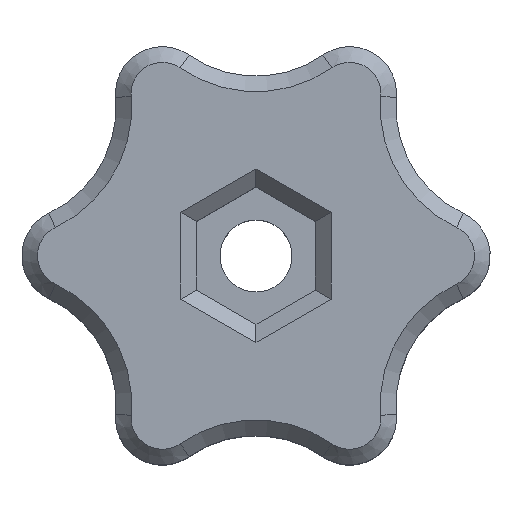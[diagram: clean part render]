
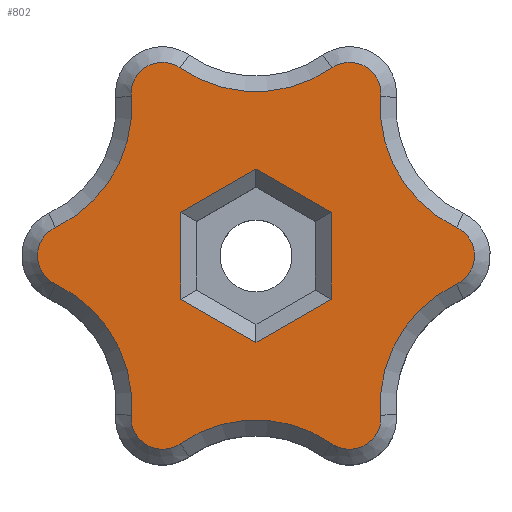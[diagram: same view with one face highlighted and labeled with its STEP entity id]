
A CAD part, top view. The second image highlights one B-rep face of the part: STEP entity #802.
In plain terms, the highlighted planar face has unit normal (0, 0, 1).
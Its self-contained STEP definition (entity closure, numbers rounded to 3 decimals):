
#53=FACE_BOUND('',#170,.T.);
#56=CIRCLE('',#870,8.5);
#57=CIRCLE('',#871,2.);
#58=CIRCLE('',#872,8.5);
#59=CIRCLE('',#873,2.);
#60=CIRCLE('',#874,8.5);
#61=CIRCLE('',#875,2.);
#62=CIRCLE('',#876,8.5);
#63=CIRCLE('',#877,2.);
#64=CIRCLE('',#878,8.5);
#65=CIRCLE('',#879,2.);
#66=CIRCLE('',#880,8.5);
#67=CIRCLE('',#881,2.);
#116=FACE_OUTER_BOUND('',#169,.T.);
#169=EDGE_LOOP('',(#576,#577,#578,#579,#580,#581,#582,#583,#584,#585,#586,
#587));
#170=EDGE_LOOP('',(#588,#589,#590,#591,#592,#593));
#216=LINE('',#1246,#284);
#222=LINE('',#1257,#290);
#225=LINE('',#1263,#293);
#226=LINE('',#1266,#294);
#229=LINE('',#1272,#297);
#232=LINE('',#1277,#300);
#284=VECTOR('',#968,10.);
#290=VECTOR('',#976,10.);
#293=VECTOR('',#981,10.);
#294=VECTOR('',#984,10.);
#297=VECTOR('',#989,10.);
#300=VECTOR('',#994,10.);
#352=VERTEX_POINT('',#1244);
#353=VERTEX_POINT('',#1245);
#357=VERTEX_POINT('',#1255);
#359=VERTEX_POINT('',#1261);
#360=VERTEX_POINT('',#1265);
#362=VERTEX_POINT('',#1271);
#368=VERTEX_POINT('',#1294);
#369=VERTEX_POINT('',#1295);
#370=VERTEX_POINT('',#1297);
#371=VERTEX_POINT('',#1299);
#372=VERTEX_POINT('',#1301);
#373=VERTEX_POINT('',#1303);
#374=VERTEX_POINT('',#1305);
#375=VERTEX_POINT('',#1307);
#376=VERTEX_POINT('',#1309);
#377=VERTEX_POINT('',#1311);
#378=VERTEX_POINT('',#1313);
#379=VERTEX_POINT('',#1315);
#421=EDGE_CURVE('',#352,#353,#216,.T.);
#427=EDGE_CURVE('',#357,#352,#222,.T.);
#430=EDGE_CURVE('',#359,#357,#225,.T.);
#431=EDGE_CURVE('',#360,#359,#226,.T.);
#434=EDGE_CURVE('',#362,#360,#229,.T.);
#437=EDGE_CURVE('',#353,#362,#232,.T.);
#446=EDGE_CURVE('',#368,#369,#56,.T.);
#447=EDGE_CURVE('',#370,#368,#57,.T.);
#448=EDGE_CURVE('',#371,#370,#58,.T.);
#449=EDGE_CURVE('',#372,#371,#59,.T.);
#450=EDGE_CURVE('',#373,#372,#60,.T.);
#451=EDGE_CURVE('',#374,#373,#61,.T.);
#452=EDGE_CURVE('',#375,#374,#62,.T.);
#453=EDGE_CURVE('',#376,#375,#63,.T.);
#454=EDGE_CURVE('',#377,#376,#64,.T.);
#455=EDGE_CURVE('',#378,#377,#65,.T.);
#456=EDGE_CURVE('',#379,#378,#66,.T.);
#457=EDGE_CURVE('',#369,#379,#67,.T.);
#576=ORIENTED_EDGE('',*,*,#446,.F.);
#577=ORIENTED_EDGE('',*,*,#447,.F.);
#578=ORIENTED_EDGE('',*,*,#448,.F.);
#579=ORIENTED_EDGE('',*,*,#449,.F.);
#580=ORIENTED_EDGE('',*,*,#450,.F.);
#581=ORIENTED_EDGE('',*,*,#451,.F.);
#582=ORIENTED_EDGE('',*,*,#452,.F.);
#583=ORIENTED_EDGE('',*,*,#453,.F.);
#584=ORIENTED_EDGE('',*,*,#454,.F.);
#585=ORIENTED_EDGE('',*,*,#455,.F.);
#586=ORIENTED_EDGE('',*,*,#456,.F.);
#587=ORIENTED_EDGE('',*,*,#457,.F.);
#588=ORIENTED_EDGE('',*,*,#421,.F.);
#589=ORIENTED_EDGE('',*,*,#427,.F.);
#590=ORIENTED_EDGE('',*,*,#430,.F.);
#591=ORIENTED_EDGE('',*,*,#431,.F.);
#592=ORIENTED_EDGE('',*,*,#434,.F.);
#593=ORIENTED_EDGE('',*,*,#437,.F.);
#787=PLANE('',#869);
#802=ADVANCED_FACE('',(#116,#53),#787,.F.);
#869=AXIS2_PLACEMENT_3D('',#1293,#1009,#1010);
#870=AXIS2_PLACEMENT_3D('',#1296,#1011,#1012);
#871=AXIS2_PLACEMENT_3D('',#1298,#1013,#1014);
#872=AXIS2_PLACEMENT_3D('',#1300,#1015,#1016);
#873=AXIS2_PLACEMENT_3D('',#1302,#1017,#1018);
#874=AXIS2_PLACEMENT_3D('',#1304,#1019,#1020);
#875=AXIS2_PLACEMENT_3D('',#1306,#1021,#1022);
#876=AXIS2_PLACEMENT_3D('',#1308,#1023,#1024);
#877=AXIS2_PLACEMENT_3D('',#1310,#1025,#1026);
#878=AXIS2_PLACEMENT_3D('',#1312,#1027,#1028);
#879=AXIS2_PLACEMENT_3D('',#1314,#1029,#1030);
#880=AXIS2_PLACEMENT_3D('',#1316,#1031,#1032);
#881=AXIS2_PLACEMENT_3D('',#1317,#1033,#1034);
#968=DIRECTION('',(-0.866,-0.5,0.));
#976=DIRECTION('',(-0.866,0.5,0.));
#981=DIRECTION('',(0.,1.,0.));
#984=DIRECTION('',(0.866,0.5,0.));
#989=DIRECTION('',(0.866,-0.5,0.));
#994=DIRECTION('',(0.,-1.,0.));
#1009=DIRECTION('center_axis',(0.,0.,-1.));
#1010=DIRECTION('ref_axis',(1.,0.,0.));
#1011=DIRECTION('center_axis',(0.,0.,1.));
#1012=DIRECTION('ref_axis',(-0.5,-0.866,0.));
#1013=DIRECTION('center_axis',(0.,0.,-1.));
#1014=DIRECTION('ref_axis',(0.426,0.905,0.));
#1015=DIRECTION('center_axis',(0.,0.,1.));
#1016=DIRECTION('ref_axis',(0.5,-0.866,0.));
#1017=DIRECTION('center_axis',(0.,0.,-1.));
#1018=DIRECTION('ref_axis',(-0.571,0.821,0.));
#1019=DIRECTION('center_axis',(0.,0.,1.));
#1020=DIRECTION('ref_axis',(1.,0.,0.));
#1021=DIRECTION('center_axis',(0.,0.,-1.));
#1022=DIRECTION('ref_axis',(-0.997,-0.084,0.));
#1023=DIRECTION('center_axis',(0.,0.,1.));
#1024=DIRECTION('ref_axis',(0.5,0.866,0.));
#1025=DIRECTION('center_axis',(0.,0.,-1.));
#1026=DIRECTION('ref_axis',(-0.426,-0.905,0.));
#1027=DIRECTION('center_axis',(0.,0.,1.));
#1028=DIRECTION('ref_axis',(-0.5,0.866,0.));
#1029=DIRECTION('center_axis',(0.,0.,-1.));
#1030=DIRECTION('ref_axis',(-0.997,0.084,0.));
#1031=DIRECTION('center_axis',(0.,0.,1.));
#1032=DIRECTION('ref_axis',(-1.,0.,0.));
#1033=DIRECTION('center_axis',(0.,0.,-1.));
#1034=DIRECTION('ref_axis',(0.997,0.084,0.));
#1244=CARTESIAN_POINT('',(50.,78.313,15.));
#1245=CARTESIAN_POINT('',(45.2,75.542,15.));
#1246=CARTESIAN_POINT('',(48.55,77.476,15.));
#1255=CARTESIAN_POINT('',(54.8,75.542,15.));
#1257=CARTESIAN_POINT('',(53.35,76.379,15.));
#1261=CARTESIAN_POINT('',(54.8,69.999,15.));
#1263=CARTESIAN_POINT('',(54.8,71.673,15.));
#1265=CARTESIAN_POINT('',(50.,67.228,15.));
#1266=CARTESIAN_POINT('',(51.45,68.065,15.));
#1271=CARTESIAN_POINT('',(45.2,69.999,15.));
#1272=CARTESIAN_POINT('',(46.65,69.162,15.));
#1277=CARTESIAN_POINT('',(45.2,73.867,15.));
#1293=CARTESIAN_POINT('Origin',(50.,72.77,15.));
#1294=CARTESIAN_POINT('',(62.834,70.961,15.));
#1295=CARTESIAN_POINT('',(57.984,62.56,15.));
#1296=CARTESIAN_POINT('Origin',(66.454,63.27,15.));
#1297=CARTESIAN_POINT('',(62.834,74.58,15.));
#1298=CARTESIAN_POINT('Origin',(61.982,72.77,15.));
#1299=CARTESIAN_POINT('',(57.984,82.98,15.));
#1300=CARTESIAN_POINT('Origin',(66.454,82.27,15.));
#1301=CARTESIAN_POINT('',(54.85,84.79,15.));
#1302=CARTESIAN_POINT('Origin',(55.991,83.147,15.));
#1303=CARTESIAN_POINT('',(45.15,84.79,15.));
#1304=CARTESIAN_POINT('Origin',(50.,91.77,15.));
#1305=CARTESIAN_POINT('',(42.016,82.98,15.));
#1306=CARTESIAN_POINT('Origin',(44.009,83.147,15.));
#1307=CARTESIAN_POINT('',(37.166,74.58,15.));
#1308=CARTESIAN_POINT('Origin',(33.546,82.27,15.));
#1309=CARTESIAN_POINT('',(37.166,70.961,15.));
#1310=CARTESIAN_POINT('Origin',(38.018,72.77,15.));
#1311=CARTESIAN_POINT('',(42.016,62.56,15.));
#1312=CARTESIAN_POINT('Origin',(33.546,63.27,15.));
#1313=CARTESIAN_POINT('',(45.15,60.751,15.));
#1314=CARTESIAN_POINT('Origin',(44.009,62.393,15.));
#1315=CARTESIAN_POINT('',(54.85,60.751,15.));
#1316=CARTESIAN_POINT('Origin',(50.,53.77,15.));
#1317=CARTESIAN_POINT('Origin',(55.991,62.393,15.));
